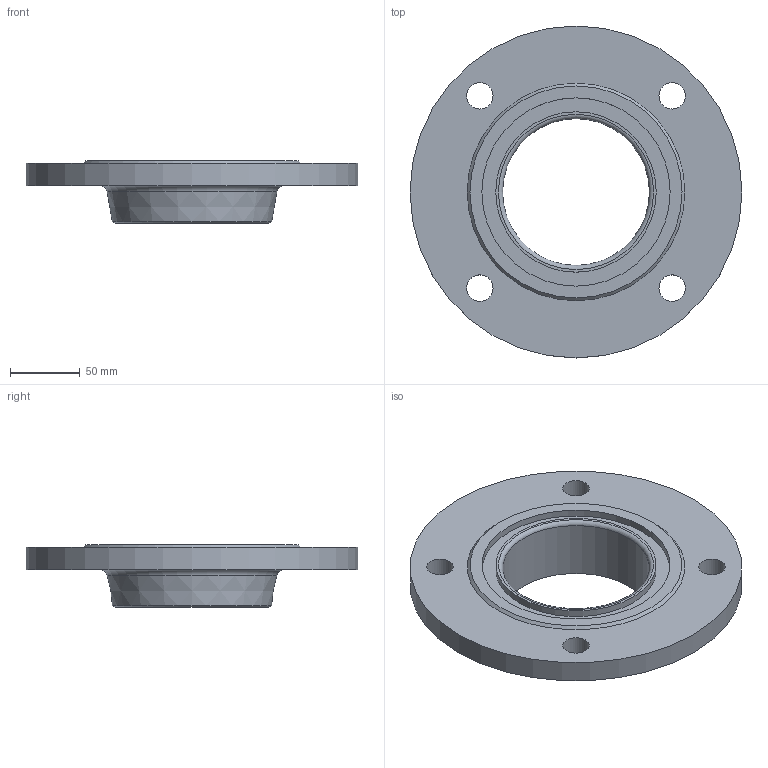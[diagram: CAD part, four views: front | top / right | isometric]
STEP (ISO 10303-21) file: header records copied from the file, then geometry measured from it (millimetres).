
FILE_DESCRIPTION(/* description */ (''),/* implementation_level */ '2;1');
FILE_NAME(/* name */ 'C:\Users\D\Documents\Inventor\HP\JIS\フランジ\水道用フランジF12\GF\ffws_gf_100.stp',/* time_stamp */ '2024-08-28T10:11:29+09:00',/* author */ ('D'),/* organization */ (''),/* preprocessor_version */ 'ST-DEVELOPER v18',/* originating_system */ 'Autodesk Inventor 2020',/* authorisation */ '');
FILE_SCHEMA (('AUTOMOTIVE_DESIGN { 1 0 10303 214 3 1 1 }'));
Length unit declared in the file: millimetre
Products named in the file (1): ffws_rf_80
Bounding box: 238 x 238 x 45 mm (x, y, z)
Volume: 618111.8 mm3; surface area: 111531.5 mm2
Topology: 1 solids, 1 shells, 19 faces, 52 edges, 39 vertices
Faces by surface type: cylinder 8, plane 6, cone 3, torus 2
Full cylindrical faces by diameter (mm): 19 x4, 105.3 x1, 115 x1, 135 x1, 238 x1
Entity records: 712 total; most frequent: DIRECTION 133, CARTESIAN_POINT 111, ORIENTED_EDGE 104, AXIS2_PLACEMENT_3D 61, EDGE_CURVE 52, CIRCLE 41, VERTEX_POINT 39, EDGE_LOOP 33
